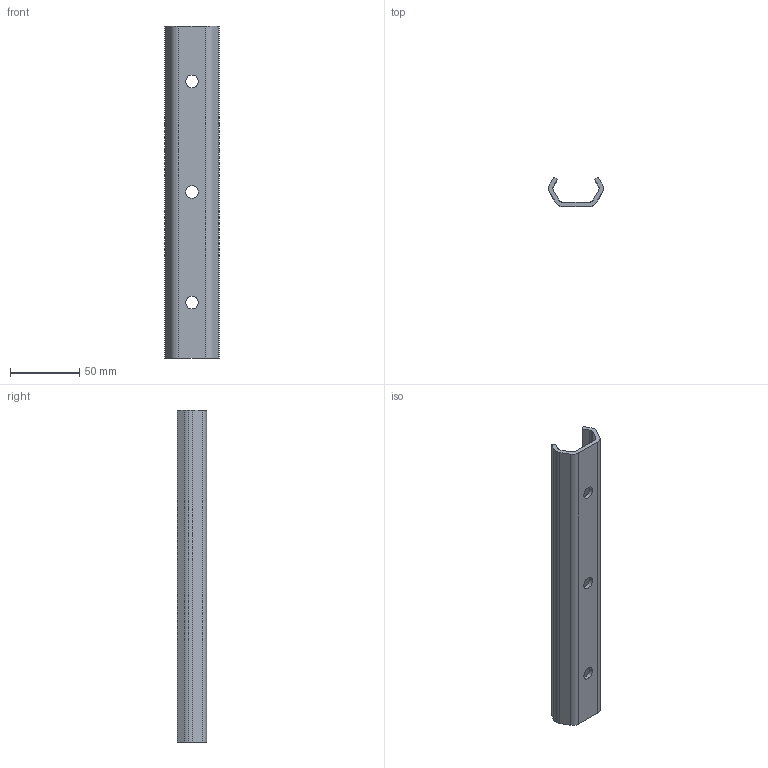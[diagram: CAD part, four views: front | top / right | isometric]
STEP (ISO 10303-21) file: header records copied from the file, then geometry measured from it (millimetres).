
FILE_DESCRIPTION(('STEP AP214'),'1');
FILE_NAME('rail_tex40-240.stp','2019-03-08T08:32:52',('TraceParts'),('TraceParts S.A.'),'Spatial InterOp 3D',' ',' ');
FILE_SCHEMA(('automotive_design'));
Length unit declared in the file: millimetre
Products named in the file (1): rail_tex40-240
Bounding box: 39.53 x 21 x 240 mm (x, y, z)
Volume: 46915.7 mm3; surface area: 33420 mm2
Topology: 1 solids, 1 shells, 89 faces, 234 edges, 156 vertices
Faces by surface type: plane 60, cylinder 18, bspline 11
Entity records: 5163 total; most frequent: CARTESIAN_POINT 2247, ORIENTED_EDGE 468, DIRECTION 406, EDGE_CURVE 234, LINE 176, VECTOR 176, VERTEX_POINT 156, AXIS2_PLACEMENT_3D 115
